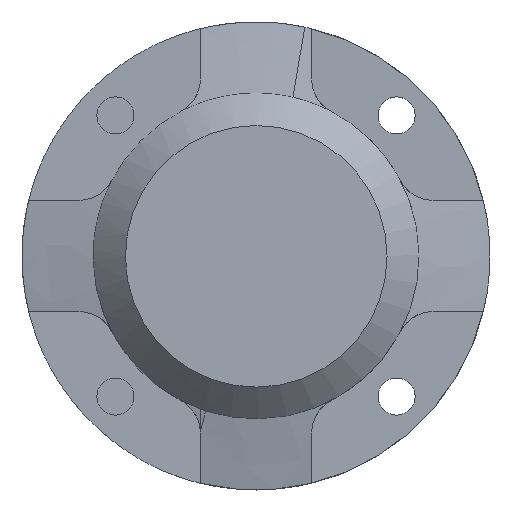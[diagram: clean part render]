
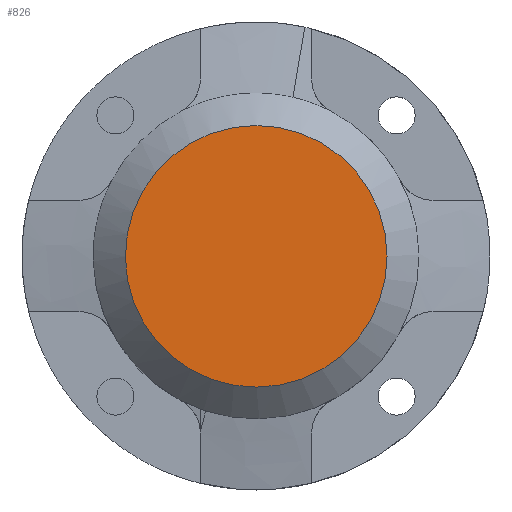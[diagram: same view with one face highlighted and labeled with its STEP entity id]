
A CAD part, top view. The second image highlights one B-rep face of the part: STEP entity #826.
In plain terms, the highlighted planar face has unit normal (0, 0, 1).
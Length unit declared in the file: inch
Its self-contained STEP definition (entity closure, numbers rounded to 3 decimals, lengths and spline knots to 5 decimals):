
#120=PLANE('',#925);
#166=FACE_OUTER_BOUND('',#222,.T.);
#222=EDGE_LOOP('',(#760));
#274=CIRCLE('',#926,1.76374);
#396=VERTEX_POINT('',#2823);
#519=EDGE_CURVE('',#396,#396,#274,.T.);
#760=ORIENTED_EDGE('',*,*,#519,.F.);
#826=ADVANCED_FACE('',(#166),#120,.F.);
#925=AXIS2_PLACEMENT_3D('',#2822,#1126,#1127);
#926=AXIS2_PLACEMENT_3D('',#2824,#1128,#1129);
#1126=DIRECTION('center_axis',(0.,0.,
-1.));
#1127=DIRECTION('ref_axis',(-0.707,0.707,0.));
#1128=DIRECTION('center_axis',(0.,0.,
-1.));
#1129=DIRECTION('ref_axis',(0.707,-0.707,0.));
#2822=CARTESIAN_POINT('Origin',(-1.19569,4.9735,5.05958));
#2823=CARTESIAN_POINT('',(0.32971,5.85888,5.05958));
#2824=CARTESIAN_POINT('Origin',(-1.19569,4.9735,5.05958));
